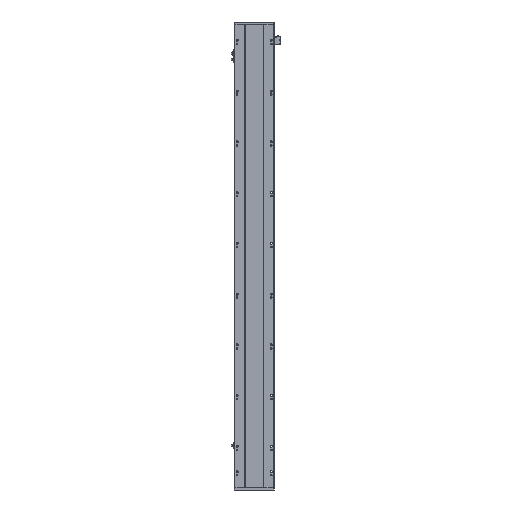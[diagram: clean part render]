
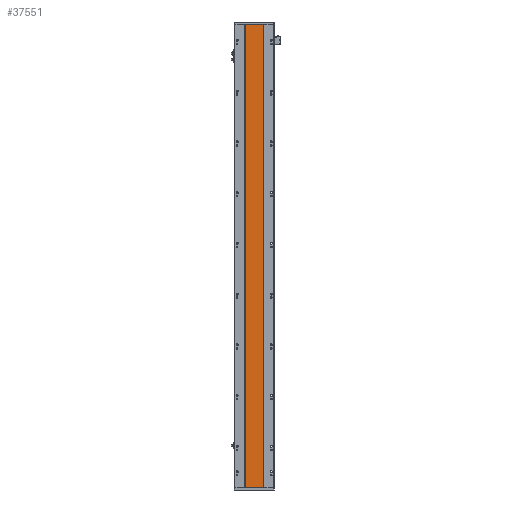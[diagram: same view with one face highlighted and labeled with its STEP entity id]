
A CAD part, front view. The second image highlights one B-rep face of the part: STEP entity #37551.
In plain terms, the highlighted planar face has unit normal (0, -1, 0).
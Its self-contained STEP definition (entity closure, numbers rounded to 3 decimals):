
#272 = ORIENTED_EDGE ( 'NONE', *, *, #25664, .T. ) ;
#1353 = LINE ( 'NONE', #39953, #38971 ) ;
#2536 = ORIENTED_EDGE ( 'NONE', *, *, #3014, .F. ) ;
#2678 = AXIS2_PLACEMENT_3D ( 'NONE', #16088, #25184, #28684 ) ;
#3014 = EDGE_CURVE ( 'NONE', #34449, #10836, #31944, .T. ) ;
#3240 = CARTESIAN_POINT ( 'NONE',  ( 129.288, 16.9, 1972. ) ) ;
#4007 = PLANE ( 'NONE',  #2678 ) ;
#5399 = EDGE_CURVE ( 'NONE', #31318, #24790, #37985, .T. ) ;
#5649 = CARTESIAN_POINT ( 'NONE',  ( 129.288, 16.9, 1972. ) ) ;
#6988 = DIRECTION ( 'NONE',  ( 1., 0., 0. ) ) ;
#9412 = DIRECTION ( 'NONE',  ( 1., 0., 0. ) ) ;
#9735 = CARTESIAN_POINT ( 'NONE',  ( 205.288, 16.9, 1972. ) ) ;
#9894 = CARTESIAN_POINT ( 'NONE',  ( 129.288, 16.9, 0. ) ) ;
#10836 = VERTEX_POINT ( 'NONE', #9735 ) ;
#12739 = LINE ( 'NONE', #5649, #22321 ) ;
#12779 = EDGE_LOOP ( 'NONE', ( #13048, #21978, #2536, #272 ) ) ;
#13048 = ORIENTED_EDGE ( 'NONE', *, *, #5399, .T. ) ;
#15658 = CARTESIAN_POINT ( 'NONE',  ( 205.288, 16.9, 0. ) ) ;
#16088 = CARTESIAN_POINT ( 'NONE',  ( 205.288, 16.9, 1972. ) ) ;
#16504 = FACE_OUTER_BOUND ( 'NONE', #12779, .T. ) ;
#18053 = EDGE_CURVE ( 'NONE', #10836, #24790, #1353, .T. ) ;
#21978 = ORIENTED_EDGE ( 'NONE', *, *, #18053, .F. ) ;
#22321 = VECTOR ( 'NONE', #24274, 1000. ) ;
#24255 = CARTESIAN_POINT ( 'NONE',  ( 129.288, 16.9, 1972. ) ) ;
#24274 = DIRECTION ( 'NONE',  ( 0., 0., -1. ) ) ;
#24675 = VECTOR ( 'NONE', #6988, 1000. ) ;
#24790 = VERTEX_POINT ( 'NONE', #25942 ) ;
#25184 = DIRECTION ( 'NONE',  ( 0., 1., 0. ) ) ;
#25664 = EDGE_CURVE ( 'NONE', #34449, #31318, #12739, .T. ) ;
#25942 = CARTESIAN_POINT ( 'NONE',  ( 205.288, 16.9, 0. ) ) ;
#28684 = DIRECTION ( 'NONE',  ( -1., 0., 0. ) ) ;
#30308 = VECTOR ( 'NONE', #9412, 1000. ) ;
#31318 = VERTEX_POINT ( 'NONE', #9894 ) ;
#31944 = LINE ( 'NONE', #3240, #24675 ) ;
#34449 = VERTEX_POINT ( 'NONE', #24255 ) ;
#36590 = DIRECTION ( 'NONE',  ( 0., 0., -1. ) ) ;
#37551 = ADVANCED_FACE ( 'NONE', ( #16504 ), #4007, .F. ) ;
#37985 = LINE ( 'NONE', #15658, #30308 ) ;
#38971 = VECTOR ( 'NONE', #36590, 1000. ) ;
#39953 = CARTESIAN_POINT ( 'NONE',  ( 205.288, 16.9, 1972. ) ) ;
